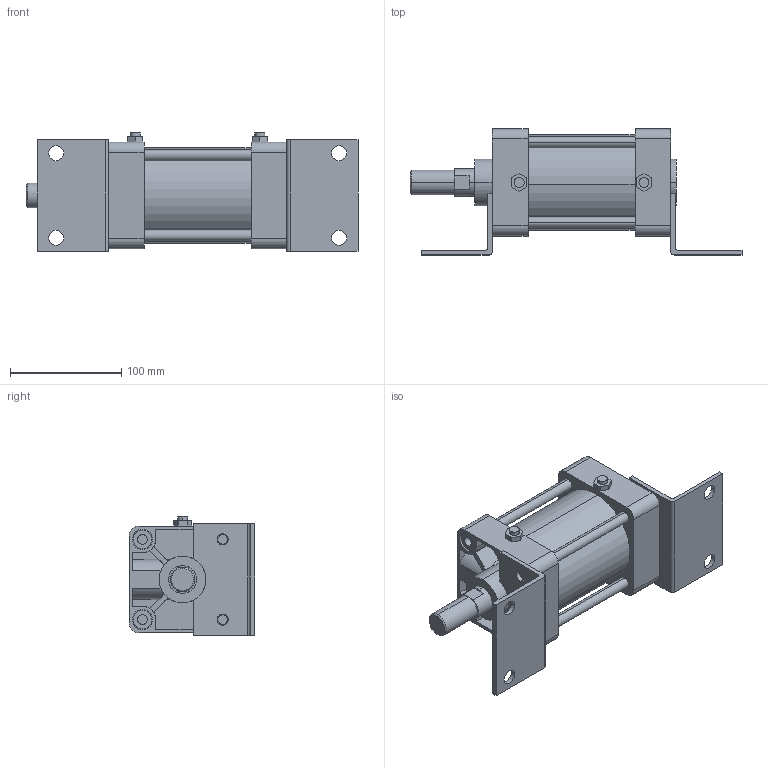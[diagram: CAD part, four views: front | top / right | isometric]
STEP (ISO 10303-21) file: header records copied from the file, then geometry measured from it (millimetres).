
FILE_DESCRIPTION (( 'STEP AP203' ), '1' );
FILE_NAME ('KG2-80#-50-L.STEP', '2016-04-07T07:33:51', ( '' ), ( '' ), 'SwSTEP 2.0', 'SolidWorks 2014', '' );
FILE_SCHEMA (( 'CONFIG_CONTROL_DESIGN' ));
Length unit declared in the file: millimetre
Products named in the file (7): KG2-80-After; K-80-L; KGLH2-80-50; KG2-80#-50-L
Assembly tree (17 placements, depth 2):
  KG2-80#-50-L
    KG2-80-After
    KGLH2-80-50
    (unnamed)
    (unnamed)  x4
    (unnamed)  x8
    K-80-L  x2
Bounding box: 298 x 113 x 106.3 mm (x, y, z)
Volume: 1141641.3 mm3; surface area: 218102.1 mm2
Topology: 17 solids, 17 shells, 349 faces, 836 edges, 536 vertices
Faces by surface type: plane 151, cylinder 140, torus 32, cone 26
Entity records: 8301 total; most frequent: CARTESIAN_POINT 1365, DIRECTION 1304, ORIENTED_EDGE 1184, EDGE_CURVE 592, AXIS2_PLACEMENT_3D 481, VERTEX_POINT 390, LINE 342, VECTOR 342
